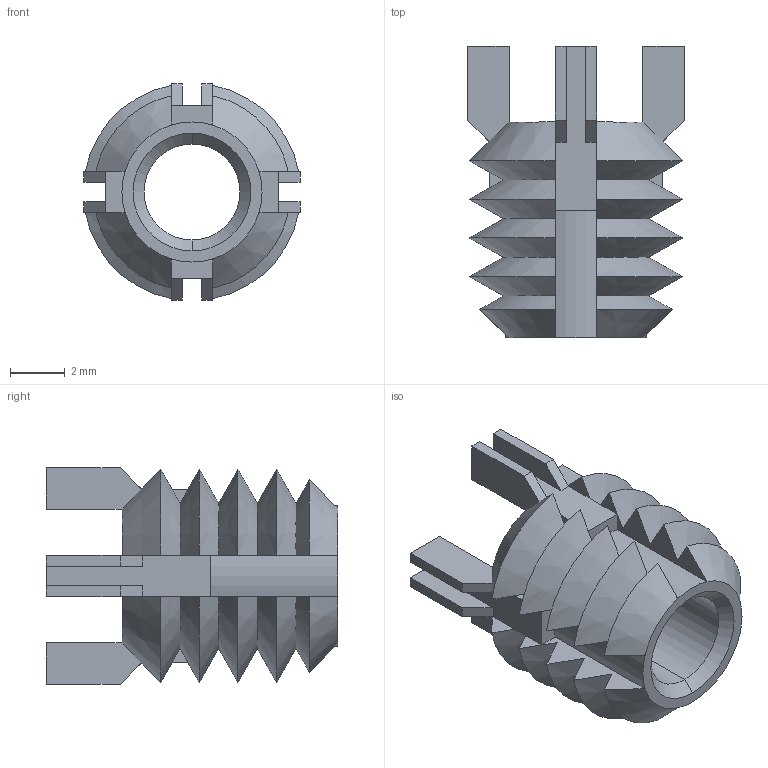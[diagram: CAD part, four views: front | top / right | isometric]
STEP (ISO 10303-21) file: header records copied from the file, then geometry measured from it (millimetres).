
FILE_DESCRIPTION (( 'STEP AP203' ), '1' );
FILE_NAME ('22034.W0310.step', '2023-04-20T09:54:46', ( '' ), ( '' ), 'SwSTEP 2.0', 'SolidWorks 2019', '' );
FILE_SCHEMA (( 'CONFIG_CONTROL_DESIGN' ));
Length unit declared in the file: millimetre
Products named in the file (1): 22034.W0310
Bounding box: 7.89 x 10.64 x 7.89 mm (x, y, z)
Volume: 190.2 mm3; surface area: 497.1 mm2
Topology: 1 solids, 1 shells, 124 faces, 322 edges, 200 vertices
Faces by surface type: plane 74, cone 44, cylinder 6
Entity records: 3899 total; most frequent: CARTESIAN_POINT 959, ORIENTED_EDGE 644, DIRECTION 528, EDGE_CURVE 322, VERTEX_POINT 200, AXIS2_PLACEMENT_3D 185, VECTOR 158, LINE 158
